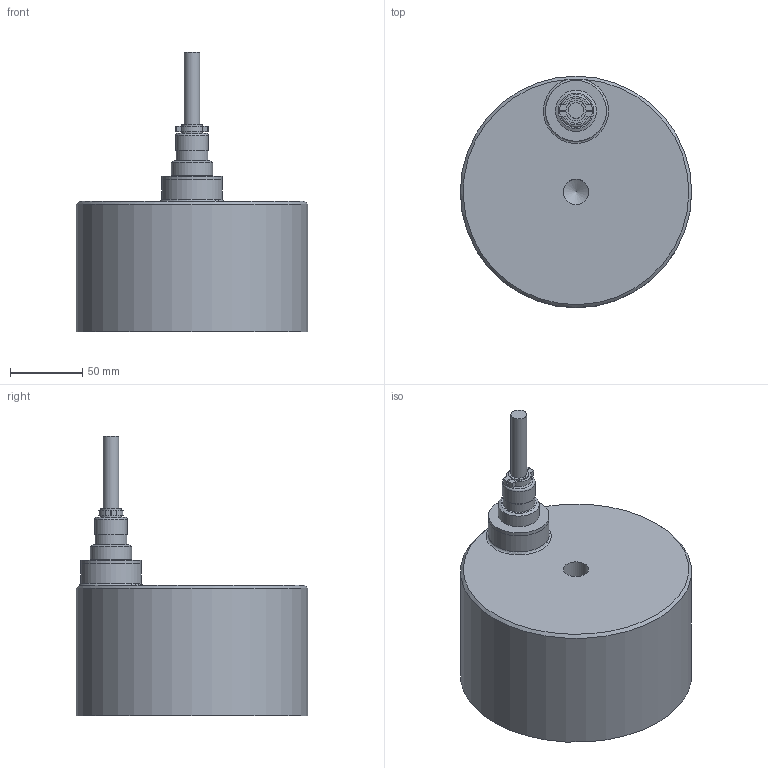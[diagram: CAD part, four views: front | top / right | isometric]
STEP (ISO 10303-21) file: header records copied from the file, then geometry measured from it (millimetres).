
FILE_DESCRIPTION(/* description */ (''),/* implementation_level */ '2;1');
FILE_NAME(/* name */ 'EMH-1-160Dx90H-V.step',/* time_stamp */ '2023-12-15T14:31:51+09:00',/* author */ (''),/* organization */ (''),/* preprocessor_version */ 'ST-DEVELOPER v20',/* originating_system */ 'Autodesk Translation Framework v12.14.0.127',/* authorisation */ '');
FILE_SCHEMA (('AUTOMOTIVE_DESIGN { 1 0 10303 214 3 1 1 }'));
Length unit declared in the file: millimetre
Products named in the file (7): EMH-1-160Dx90H-V; BODY; BOX-SFB8-30; NCS-252-R; Cable; NCS-252-P; BODY_1
Assembly tree (7 placements, depth 4):
  EMH-1-160Dx90H-V
    BODY
      BOX-SFB8-30  x2
      NCS-252-R
    Cable
      NCS-252-P
        BODY_1
Bounding box: 160 x 160 x 193 mm (x, y, z)
Volume: 1841435.4 mm3; surface area: 106677.7 mm2
Topology: 8 solids, 8 shells, 117 faces, 237 edges, 151 vertices
Faces by surface type: plane 64, cylinder 35, cone 13, torus 3, bspline 2
Full cylindrical faces by diameter (mm): 3.1 x2, 4 x2, 6.779 x2, 8 x2, 10.8 x1, 14 x1, 15.73 x2, 17.519 x1, 21.4 x1, 22 x2, 22.6 x1, 24.884 x1, 25 x3, 28.5 x1, 42 x2, 74 x1, 146 x1, 160 x1
Entity records: 2830 total; most frequent: DIRECTION 505, CARTESIAN_POINT 494, ORIENTED_EDGE 378, AXIS2_PLACEMENT_3D 207, EDGE_CURVE 189, VERTEX_POINT 124, EDGE_LOOP 117, FACE_OUTER_BOUND 98
